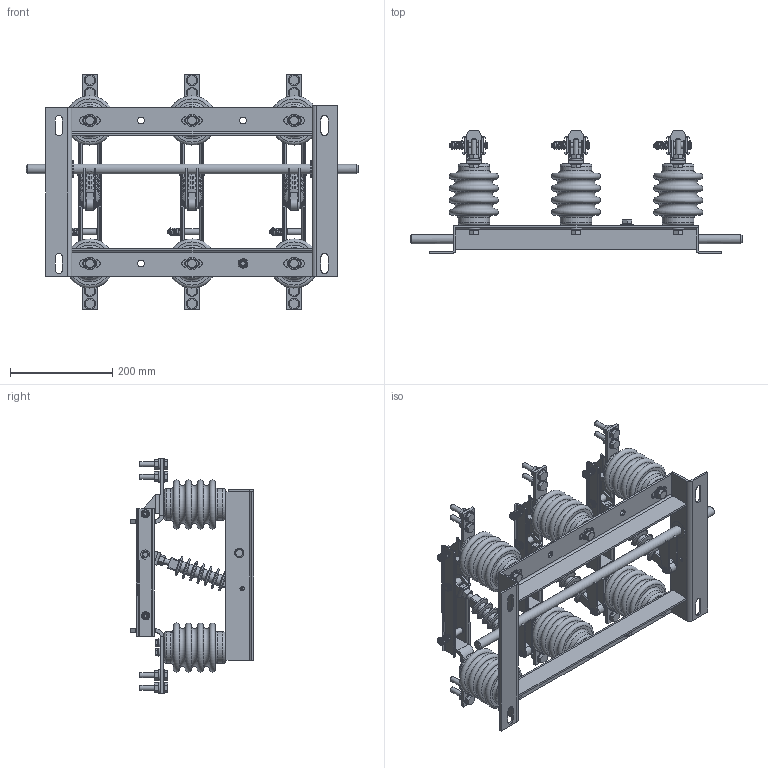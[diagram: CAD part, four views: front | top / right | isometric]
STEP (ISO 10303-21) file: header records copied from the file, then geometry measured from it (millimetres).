
FILE_DESCRIPTION (( 'STEP AP214' ), '1' );
FILE_NAME ('Ðàçúåäèíèòåëü âûñîêîâîëüòíûé ÐÂ-10400-È2-Ó3.STEP', '2023-02-03T12:01:34', ( '' ), ( '' ), 'SwSTEP 2.0', 'SolidWorks 2018', '' );
FILE_SCHEMA (( 'AUTOMOTIVE_DESIGN' ));
Length unit declared in the file: millimetre
Products named in the file (1): Ðàçúåäèíèòåëü âûñîêîâîëüòíûé ÐÂ-10400-È2-Ó3
Bounding box: 650 x 241 x 462 mm (x, y, z)
Volume: 5305032.1 mm3; surface area: 1043347.3 mm2
Topology: 1 solids, 7 shells, 2052 faces, 5153 edges, 3271 vertices
Faces by surface type: plane 1261, cylinder 560, cone 125, torus 100, bspline 6
Full cylindrical faces by diameter (mm): 4 x13, 8 x37, 8.2 x1, 8.3 x4, 8.4 x6, 9.485 x1, 9.55 x4, 9.795 x1, 10 x12, 10.106 x1, 10.343 x4, 10.653 x2, 10.822 x3, 11.745 x3, 12 x22, 12.35 x12, 12.613 x4, 12.941 x4, 13 x10, 13.925 x4, 14.903 x4, 16 x12, 18 x2, 19.294 x3, 22 x42, 24 x7, 34 x2, 54 x12, 62 x12
Entity records: 107419 total; most frequent: CARTESIAN_POINT 38171, DIRECTION 9711, ORIENTED_EDGE 9044, EDGE_CURVE 4522, AXIS2_PLACEMENT_3D 3657, VERTEX_POINT 3109, EDGE_LOOP 2825, LINE 2397
